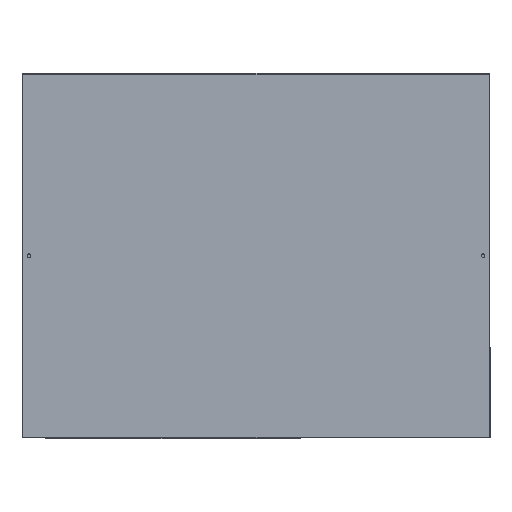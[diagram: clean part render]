
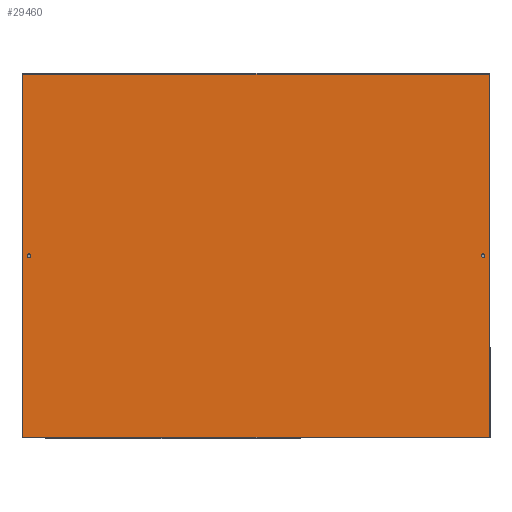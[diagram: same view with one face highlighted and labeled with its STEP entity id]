
A CAD part, front view. The second image highlights one B-rep face of the part: STEP entity #29460.
In plain terms, the highlighted planar face has unit normal (0, -1, 0) as drawn and (0, 0, -1) by its records, which use the part's own axes.
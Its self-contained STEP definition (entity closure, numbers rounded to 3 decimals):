
#2771=LINE('',#47298,#6003);
#2772=LINE('',#47301,#6004);
#2773=LINE('',#47303,#6005);
#2774=LINE('',#47305,#6006);
#6003=VECTOR('',#38785,1000.);
#6004=VECTOR('',#38786,1000.);
#6005=VECTOR('',#38787,1000.);
#6006=VECTOR('',#38788,1000.);
#12058=ORIENTED_EDGE('',*,*,#17709,.F.);
#12059=ORIENTED_EDGE('',*,*,#17710,.T.);
#12060=ORIENTED_EDGE('',*,*,#17711,.T.);
#12061=ORIENTED_EDGE('',*,*,#17712,.F.);
#12062=ORIENTED_EDGE('',*,*,#17713,.F.);
#12063=ORIENTED_EDGE('',*,*,#17714,.F.);
#17709=EDGE_CURVE('',#20965,#20966,#2771,.T.);
#17710=EDGE_CURVE('',#20965,#20967,#2772,.T.);
#17711=EDGE_CURVE('',#20967,#20968,#2773,.T.);
#17712=EDGE_CURVE('',#20966,#20968,#2774,.T.);
#17713=EDGE_CURVE('',#20969,#20969,#22323,.T.);
#17714=EDGE_CURVE('',#20970,#20970,#22324,.T.);
#20965=VERTEX_POINT('',#47299);
#20966=VERTEX_POINT('',#47300);
#20967=VERTEX_POINT('',#47302);
#20968=VERTEX_POINT('',#47304);
#20969=VERTEX_POINT('',#47307);
#20970=VERTEX_POINT('',#47309);
#22323=CIRCLE('',#33234,2.);
#22324=CIRCLE('',#33235,2.);
#24113=EDGE_LOOP('',(#12058,#12059,#12060,#12061));
#24114=EDGE_LOOP('',(#12062));
#24115=EDGE_LOOP('',(#12063));
#26490=FACE_BOUND('',#24113,.T.);
#26491=FACE_BOUND('',#24114,.T.);
#26492=FACE_BOUND('',#24115,.T.);
#28149=PLANE('',#33233);
#29460=ADVANCED_FACE('',(#26490,#26491,#26492),#28149,.T.);
#33233=AXIS2_PLACEMENT_3D('',#47297,#38783,#38784);
#33234=AXIS2_PLACEMENT_3D('',#47306,#38789,#38790);
#33235=AXIS2_PLACEMENT_3D('',#47308,#38791,#38792);
#38783=DIRECTION('',(0.,0.,-1.));
#38784=DIRECTION('',(-1.,0.,0.));
#38785=DIRECTION('',(-1.,0.,0.));
#38786=DIRECTION('',(0.,-1.,0.));
#38787=DIRECTION('',(-1.,0.,0.));
#38788=DIRECTION('',(0.,-1.,0.));
#38789=DIRECTION('',(0.,0.,-1.));
#38790=DIRECTION('',(-1.,0.,0.));
#38791=DIRECTION('',(0.,0.,-1.));
#38792=DIRECTION('',(-1.,0.,0.));
#47297=CARTESIAN_POINT('',(292.2,-248.2,-0.7));
#47298=CARTESIAN_POINT('',(552.4,437.1,-0.7));
#47299=CARTESIAN_POINT('',(552.4,437.1,-0.7));
#47300=CARTESIAN_POINT('',(32.,437.1,-0.7));
#47301=CARTESIAN_POINT('',(552.4,437.1,-0.7));
#47302=CARTESIAN_POINT('',(552.4,32.,-0.7));
#47303=CARTESIAN_POINT('',(552.4,32.,-0.7));
#47304=CARTESIAN_POINT('',(32.,32.,-0.7));
#47305=CARTESIAN_POINT('',(32.,437.1,-0.7));
#47306=CARTESIAN_POINT('',(545.4,234.55,-0.7));
#47307=CARTESIAN_POINT('',(543.4,234.55,-0.7));
#47308=CARTESIAN_POINT('',(39.,234.55,-0.7));
#47309=CARTESIAN_POINT('',(37.,234.55,-0.7));
